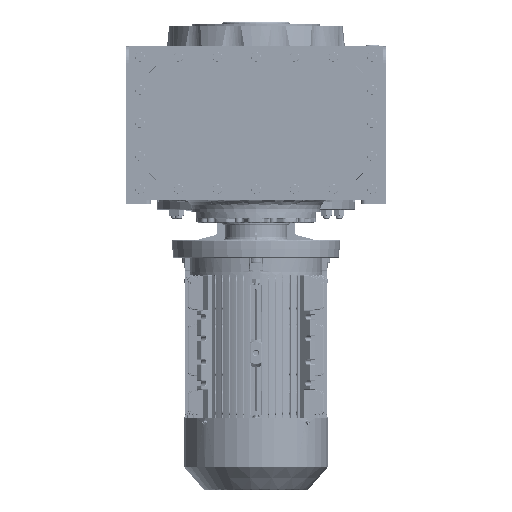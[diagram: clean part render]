
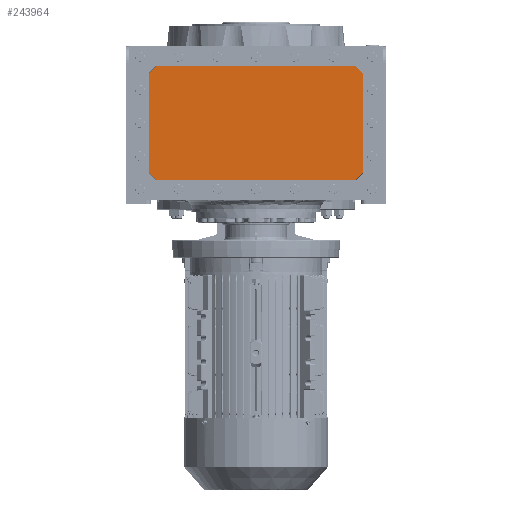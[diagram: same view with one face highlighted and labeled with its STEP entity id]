
A CAD part, front view. The second image highlights one B-rep face of the part: STEP entity #243964.
In plain terms, the highlighted planar face has unit normal (0, -1, 0).
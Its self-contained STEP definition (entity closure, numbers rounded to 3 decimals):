
#36362 = LINE ( 'NONE', #50405, #36488 ) ;
#36395 = VECTOR ( 'NONE', #50123, 1000. ) ;
#36402 = VECTOR ( 'NONE', #50318, 1000. ) ;
#36424 = LINE ( 'NONE', #50482, #36445 ) ;
#36437 = VECTOR ( 'NONE', #50320, 1000. ) ;
#36445 = VECTOR ( 'NONE', #50474, 1000. ) ;
#36453 = LINE ( 'NONE', #50147, #36395 ) ;
#36481 = LINE ( 'NONE', #50336, #36402 ) ;
#36488 = VECTOR ( 'NONE', #50447, 1000. ) ;
#36530 = LINE ( 'NONE', #50302, #36437 ) ;
#36552 = VECTOR ( 'NONE', #54094, 1000. ) ;
#36564 = VECTOR ( 'NONE', #50918, 1000. ) ;
#36613 = LINE ( 'NONE', #53903, #36552 ) ;
#36673 = LINE ( 'NONE', #50545, #36564 ) ;
#36694 = VECTOR ( 'NONE', #54390, 1000. ) ;
#36713 = LINE ( 'NONE', #54343, #36694 ) ;
#38002 = CARTESIAN_POINT ( 'NONE',  ( 0., -195., 0. ) ) ;
#38004 = PLANE ( 'NONE',  #288888 ) ;
#38025 = DIRECTION ( 'NONE',  ( 0., -1., 0. ) ) ;
#38096 = DIRECTION ( 'NONE',  ( 0., 0., -1. ) ) ;
#50123 = DIRECTION ( 'NONE',  ( 1., 0., 0. ) ) ;
#50147 = CARTESIAN_POINT ( 'NONE',  ( -179., -195., -71.554 ) ) ;
#50302 = CARTESIAN_POINT ( 'NONE',  ( 178.432, -195., -71.318 ) ) ;
#50318 = DIRECTION ( 'NONE',  ( -1., 0., 0. ) ) ;
#50320 = DIRECTION ( 'NONE',  ( 0.707, 0., -0.707 ) ) ;
#50336 = CARTESIAN_POINT ( 'NONE',  ( -179., -195., -273.946 ) ) ;
#50405 = CARTESIAN_POINT ( 'NONE',  ( 190.432, -195., -262.182 ) ) ;
#50447 = DIRECTION ( 'NONE',  ( -0.707, 0., -0.707 ) ) ;
#50474 = DIRECTION ( 'NONE',  ( 0., 0., 1. ) ) ;
#50482 = CARTESIAN_POINT ( 'NONE',  ( -190.196, -195., -82.75 ) ) ;
#50545 = CARTESIAN_POINT ( 'NONE',  ( -190.432, -195., -262.182 ) ) ;
#50918 = DIRECTION ( 'NONE',  ( -0.707, 0., 0.707 ) ) ;
#53903 = CARTESIAN_POINT ( 'NONE',  ( 190.196, -195., -82.75 ) ) ;
#54094 = DIRECTION ( 'NONE',  ( 0., 0., -1. ) ) ;
#54343 = CARTESIAN_POINT ( 'NONE',  ( -178.432, -195., -71.318 ) ) ;
#54390 = DIRECTION ( 'NONE',  ( 0.707, 0., 0.707 ) ) ;
#95996 = EDGE_LOOP ( 'NONE', ( #222093, #222045, #222089, #222072, #222050, #222031, #222070, #222054 ) ) ;
#105613 = CARTESIAN_POINT ( 'NONE',  ( 190.196, -195., -83.083 ) ) ;
#105618 = CARTESIAN_POINT ( 'NONE',  ( -190.196, -195., -83.083 ) ) ;
#105642 = CARTESIAN_POINT ( 'NONE',  ( -178.667, -195., -273.946 ) ) ;
#105726 = CARTESIAN_POINT ( 'NONE',  ( -190.196, -195., -262.417 ) ) ;
#105732 = CARTESIAN_POINT ( 'NONE',  ( 178.667, -195., -273.946 ) ) ;
#105740 = CARTESIAN_POINT ( 'NONE',  ( 178.667, -195., -71.554 ) ) ;
#105760 = CARTESIAN_POINT ( 'NONE',  ( -178.667, -195., -71.554 ) ) ;
#105842 = CARTESIAN_POINT ( 'NONE',  ( 190.196, -195., -262.417 ) ) ;
#211407 = EDGE_CURVE ( 'NONE', #311606, #311558, #36453, .T. ) ;
#211453 = EDGE_CURVE ( 'NONE', #311569, #311330, #36481, .T. ) ;
#211466 = EDGE_CURVE ( 'NONE', #311558, #311534, #36530, .T. ) ;
#211492 = EDGE_CURVE ( 'NONE', #311618, #311569, #36362, .T. ) ;
#211509 = EDGE_CURVE ( 'NONE', #311623, #311566, #36424, .T. ) ;
#211556 = EDGE_CURVE ( 'NONE', #311330, #311623, #36673, .T. ) ;
#211627 = EDGE_CURVE ( 'NONE', #311534, #311618, #36613, .T. ) ;
#211671 = EDGE_CURVE ( 'NONE', #311566, #311606, #36713, .T. ) ;
#222031 = ORIENTED_EDGE ( 'NONE', *, *, #211556, .F. ) ;
#222045 = ORIENTED_EDGE ( 'NONE', *, *, #211466, .F. ) ;
#222050 = ORIENTED_EDGE ( 'NONE', *, *, #211509, .F. ) ;
#222054 = ORIENTED_EDGE ( 'NONE', *, *, #211492, .F. ) ;
#222070 = ORIENTED_EDGE ( 'NONE', *, *, #211453, .F. ) ;
#222072 = ORIENTED_EDGE ( 'NONE', *, *, #211671, .F. ) ;
#222089 = ORIENTED_EDGE ( 'NONE', *, *, #211407, .F. ) ;
#222093 = ORIENTED_EDGE ( 'NONE', *, *, #211627, .F. ) ;
#243964 = ADVANCED_FACE ( 'NONE', ( #318411 ), #38004, .T. ) ;
#288888 = AXIS2_PLACEMENT_3D ( 'NONE', #38002, #38025, #38096 ) ;
#311330 = VERTEX_POINT ( 'NONE', #105642 ) ;
#311534 = VERTEX_POINT ( 'NONE', #105613 ) ;
#311558 = VERTEX_POINT ( 'NONE', #105740 ) ;
#311566 = VERTEX_POINT ( 'NONE', #105618 ) ;
#311569 = VERTEX_POINT ( 'NONE', #105732 ) ;
#311606 = VERTEX_POINT ( 'NONE', #105760 ) ;
#311618 = VERTEX_POINT ( 'NONE', #105842 ) ;
#311623 = VERTEX_POINT ( 'NONE', #105726 ) ;
#318411 = FACE_OUTER_BOUND ( 'NONE', #95996, .T. ) ;
